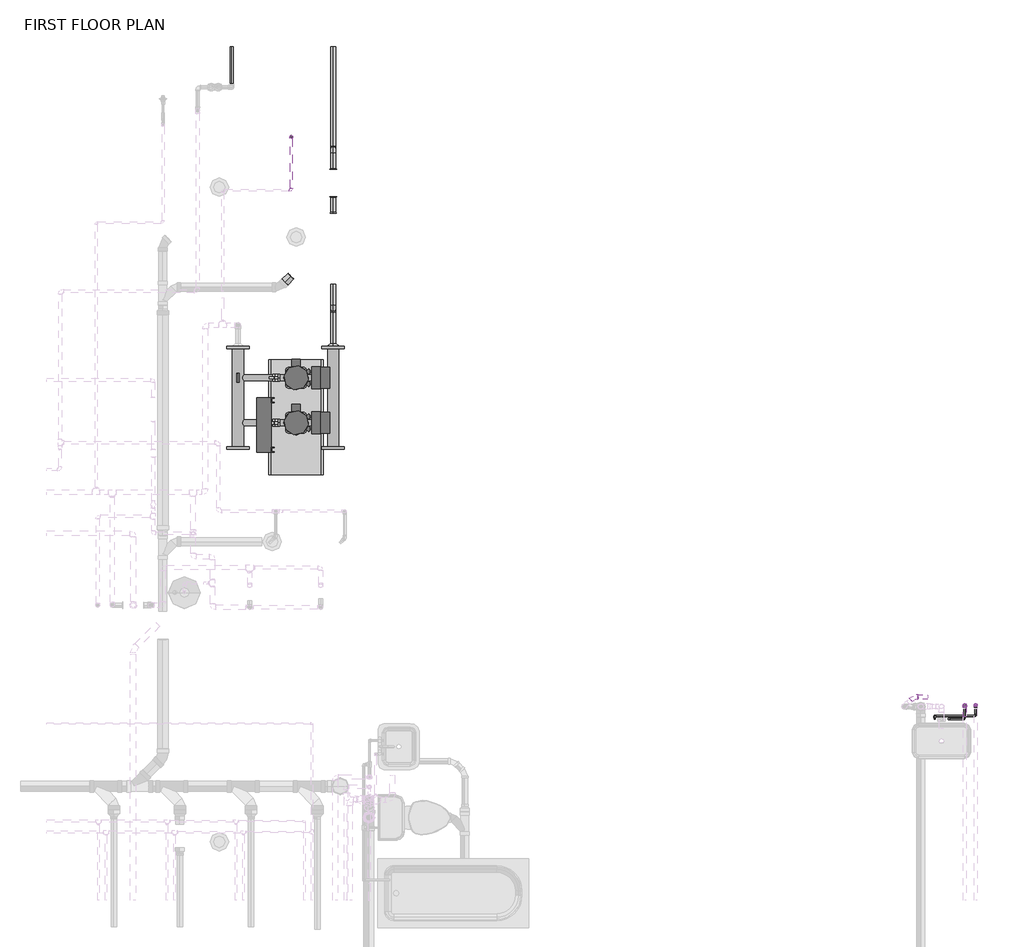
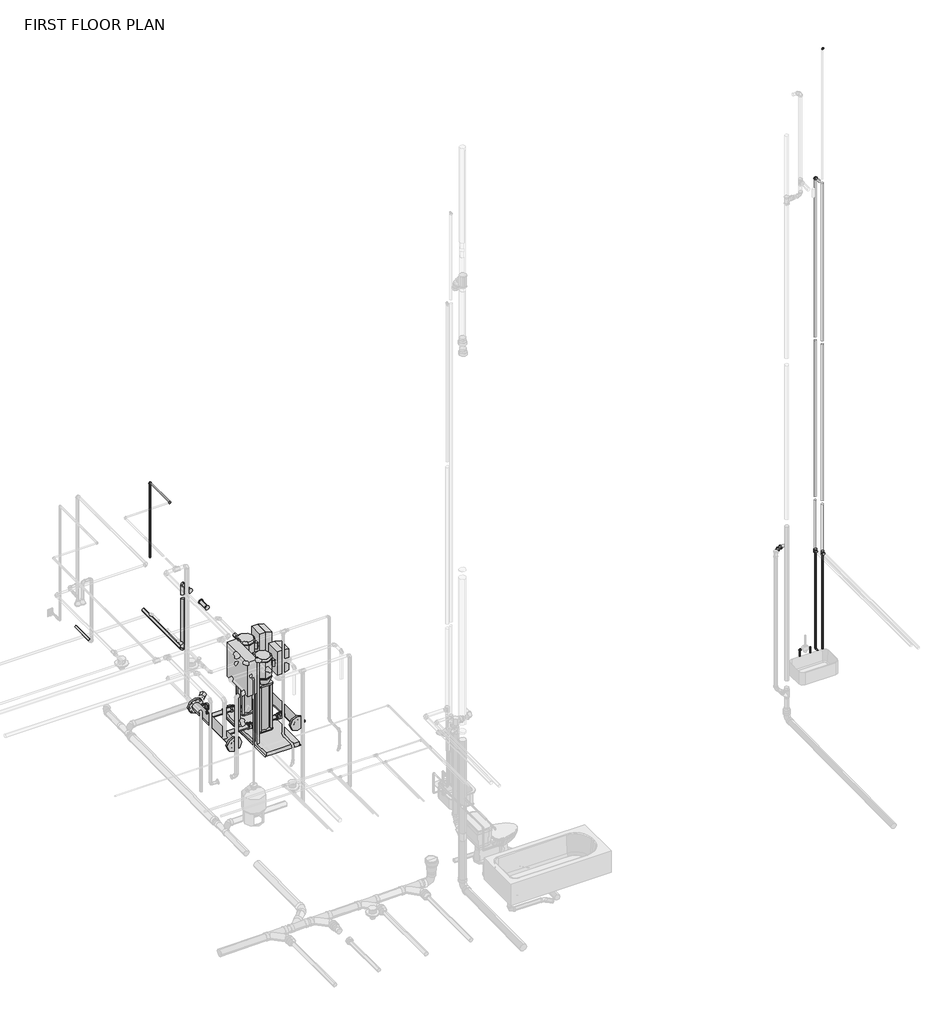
# One storey, part 29 of 29: 30 pipe segments, 27 pipe fittings, 1 proxy.
"""IFC4 building model written with IfcOpenShell, lengths in millimetres."""

from ifc_helpers import new_model, si_unit, point, frame, frame_2d, origin, place, context, project, spatial, circle_curve, trimmed, segment, composite_curve, outline, extrude, transform, mapped, element, save
from components import i270412_7bbb27d8, i270412_99a266b8, bend_pvc_sch_40_dwv_standard_9b1ab2e2, pipe_elbow_copper_k_764eecca, pipe_elbow_copper_k_feaaf02c, pipe_elbow_copper_k_aad62f2d, pipe_elbow_copper_k_aee2f062, pipe_elbow_copper_k_4cfe590c, pipe_elbow_copper_k_69a8f9be, pipe_tee_copper_k_60c871d1, pipe_transition_copper_k_2f557555, pipe_transition_copper_k_77c010de, pipe_transition_copper_k_3cb08e53, pipe_transition_copper_k_859ff352, pipe_transition_copper_k_46d96269, pipe_transition_copper_k_a9268ca5, pipe_transition_copper_k_a0e390c6

model = new_model("IFC4")

# Units and contexts
model_context = context("Model", 3, world=origin())
ifc_project = project(units=[si_unit("LENGTHUNIT", "METRE", prefix="MILLI")], contexts=[model_context])

# Site, building, storey
site = spatial("IfcSite", under=ifc_project)
building = spatial("IfcBuilding", under=site)
storey = spatial("IfcBuildingStorey", under=building, Name="FIRST FLOOR PLAN", Elevation=0.0)

# Proxy
placement = place(None, origin())
i270412_shape = i270412_7bbb27d8(model_context)
i270412_2_shape = i270412_99a266b8(model_context)
element("IfcBuildingElementProxy", 1, Name="GES Booster Pumps - Armstrong-6800DE2P-SRDR : I270412", ObjectType="GES Booster Pumps - Armstrong-6800DE2P-SRDR : I270412", at=placement, inside=storey, context=model_context, shape_type="MappedRepresentation", body=[
    mapped(i270412_shape, transform((16129.1084875, 12327.4487881, -0.03175), x_axis=(0.0, 1.0, 0.0), y_axis=(-1.0, 0.0, 0.0), z_axis=(0.0, 0.0, 1.0))),
    mapped(i270412_2_shape, transform((16129.1084875, 12327.4487881, -0.03175), x_axis=(0.0, 1.0, 0.0), y_axis=(-1.0, 0.0, 0.0), z_axis=(0.0, 0.0, 1.0))),
])

# Pipe fittings
bend_pvc_sch_40_dwv_standard_shape = bend_pvc_sch_40_dwv_standard_9b1ab2e2(model_context)
element("IfcPipeFitting", 2, ObjectType="Bend - PVC - Sch 40 - DWV : Standard", at=placement, inside=storey, context=model_context, shape_type="MappedRepresentation", body=[
    mapped(bend_pvc_sch_40_dwv_standard_shape, transform((22984.0760534, 9017.6936646, 2685.8309152), x_axis=(-0.9999457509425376, 0.0, 0.010416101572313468), y_axis=(4.542044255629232e-05, -0.9999904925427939, 0.004360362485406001), z_axis=(0.010416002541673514, 0.004360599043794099, 0.9999362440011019))),
])
pipe_elbow_copper_k_shape = pipe_elbow_copper_k_764eecca(model_context)
element("IfcPipeFitting", 3, ObjectType="Pipe Elbow : Copper- K", at=placement, inside=storey, context=model_context, shape_type="MappedRepresentation", body=[
    mapped(pipe_elbow_copper_k_shape, transform((16541.6044875, 15095.4137881, 627.85625), x_axis=(0.0, 1.0, 0.0), y_axis=(0.0, 0.0, -1.0), z_axis=(-1.0, 0.0, 0.0))),
])
element("IfcPipeFitting", 4, ObjectType="Pipe Elbow : Copper- K", at=placement, inside=storey, context=model_context, shape_type="MappedRepresentation", body=[
    mapped(pipe_elbow_copper_k_shape, transform((16541.6044875, 15095.4137881, -532.8738068), x_axis=(0.0, -1.0, 0.0), y_axis=(0.0, 0.0, 1.0), z_axis=(-1.0, 0.0, 0.0))),
])
element("IfcPipeFitting", 5, ObjectType="Pipe Elbow : Copper- K", at=placement, inside=storey, context=model_context, shape_type="MappedRepresentation", body=[
    mapped(pipe_elbow_copper_k_shape, transform((16541.6044875, 13326.1450381, 170.65625), x_axis=(0.0, 1.0, 0.0), y_axis=(0.0, 0.0, 1.0), z_axis=(1.0, 0.0, 0.0))),
])
element("IfcPipeFitting", 6, ObjectType="Pipe Elbow : Copper- K", at=placement, inside=storey, context=model_context, shape_type="MappedRepresentation", body=[
    mapped(pipe_elbow_copper_k_shape, transform((16541.6044875, 13326.1450381, 627.85625), x_axis=(0.0, 0.0, 1.0), y_axis=(0.0, 1.0, 0.0), z_axis=(-1.0, 0.0, 0.0))),
])
pipe_elbow_copper_k_2_shape = pipe_elbow_copper_k_feaaf02c(model_context)
element("IfcPipeFitting", 7, ObjectType="Pipe Elbow : Copper- K", at=placement, inside=storey, context=model_context, shape_type="MappedRepresentation", body=[
    mapped(pipe_elbow_copper_k_2_shape, transform((16076.0797169, 14641.5455631, 2490.6882812), x_axis=(0.9999999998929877, 0.0, 1.46295805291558e-05), y_axis=(0.0, 1.0, 0.0), z_axis=(-1.46295805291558e-05, 0.0, 0.9999999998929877))),
])
element("IfcPipeFitting", 8, ObjectType="Pipe Elbow : Copper- K", at=placement, inside=storey, context=model_context, shape_type="MappedRepresentation", body=[
    mapped(pipe_elbow_copper_k_2_shape, transform((16076.0797169, 15237.5387881, 2490.6882812), x_axis=(0.0, 1.0, 0.0), y_axis=(0.0, 0.0, -1.0), z_axis=(-1.0, 0.0, 0.0))),
])
element("IfcPipeFitting", 9, ObjectType="Pipe Elbow : Copper- K", at=placement, inside=storey, context=model_context, shape_type="MappedRepresentation", body=[
    mapped(pipe_elbow_copper_k_2_shape, transform((23669.3410297, 8927.8175381, 658.9178352), x_axis=(0.0, 1.0, 0.0), y_axis=(0.0, 0.0, 1.0), z_axis=(1.0, 0.0, 0.0))),
])
pipe_elbow_copper_k_3_shape = pipe_elbow_copper_k_aad62f2d(model_context)
element("IfcPipeFitting", 10, ObjectType="Pipe Elbow : Copper- K", at=placement, inside=storey, context=model_context, shape_type="MappedRepresentation", body=[
    mapped(pipe_elbow_copper_k_3_shape, transform((23548.6084875, 8927.8175381, 770.7360969), x_axis=(0.0, 0.0, -1.0), y_axis=(0.0, -1.0, 0.0), z_axis=(-1.0, 0.0, 0.0))),
])
element("IfcPipeFitting", 11, ObjectType="Pipe Elbow : Copper- K", at=placement, inside=storey, context=model_context, shape_type="MappedRepresentation", body=[
    mapped(pipe_elbow_copper_k_3_shape, transform((23548.6084875, 8774.1278432, 770.7360969), x_axis=(0.9999999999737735, 0.0, -7.242448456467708e-06), y_axis=(0.0, 1.0000000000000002, 0.0), z_axis=(7.242448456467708e-06, 0.0, 0.9999999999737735))),
])
element("IfcPipeFitting", 12, ObjectType="Pipe Elbow : Copper- K", at=placement, inside=storey, context=model_context, shape_type="MappedRepresentation", body=[
    mapped(pipe_elbow_copper_k_3_shape, transform((23669.3410297, 8806.2157662, 658.9178352), x_axis=(1.0, 0.0, 0.0), y_axis=(0.0, 1.0, 0.0), z_axis=(0.0, 0.0, 1.0))),
])
element("IfcPipeFitting", 13, ObjectType="Pipe Elbow : Copper- K", at=placement, inside=storey, context=model_context, shape_type="MappedRepresentation", body=[
    mapped(pipe_elbow_copper_k_3_shape, transform((23669.3410297, 8927.8175381, 11328.4), x_axis=(0.0, 0.0, 1.0), y_axis=(0.0, -1.0, 0.0), z_axis=(1.0, 0.0, 0.0))),
])
pipe_elbow_copper_k_4_shape = pipe_elbow_copper_k_aee2f062(model_context)
element("IfcPipeFitting", 14, ObjectType="Pipe Elbow : Copper- K", at=placement, inside=storey, context=model_context, shape_type="MappedRepresentation", body=[
    mapped(pipe_elbow_copper_k_4_shape, transform((23548.6084875, 8927.8175381, 9083.0784105), x_axis=(0.0, 1.0, 0.0), y_axis=(0.0, 0.0, -1.0), z_axis=(-1.0, 0.0, 0.0))),
])
pipe_elbow_copper_k_5_shape = pipe_elbow_copper_k_4cfe590c(model_context)
element("IfcPipeFitting", 15, ObjectType="Pipe Elbow : Copper- K", at=placement, inside=storey, context=model_context, shape_type="MappedRepresentation", body=[
    mapped(pipe_elbow_copper_k_5_shape, transform((23373.3163377, 8774.1278432, 770.7373664), x_axis=(0.0, 0.0, -1.0), y_axis=(1.0, 0.0, 0.0), z_axis=(0.0, -1.0, 0.0))),
])
pipe_elbow_copper_k_6_shape = pipe_elbow_copper_k_69a8f9be(model_context)
element("IfcPipeFitting", 16, ObjectType="Pipe Elbow : Copper- K", at=placement, inside=storey, context=model_context, shape_type="MappedRepresentation", body=[
    mapped(pipe_elbow_copper_k_6_shape, transform((23216.0641516, 8806.2157662, 658.9178352), x_axis=(-1.0, 0.0, 0.0), y_axis=(0.0, 0.0, -1.0), z_axis=(0.0, -1.0, 0.0))),
])
element("IfcPipeFitting", 17, ObjectType="Pipe Elbow : Copper- K", at=placement, inside=storey, context=model_context, shape_type="MappedRepresentation", body=[
    mapped(pipe_elbow_copper_k_6_shape, transform((23216.0641516, 8806.2157662, 944.8601562), x_axis=(0.0, 0.0, 1.0), y_axis=(0.0, 1.0, 0.0), z_axis=(-1.0, 0.0, 0.0))),
])
pipe_tee_copper_k_shape = pipe_tee_copper_k_60c871d1(model_context)
element("IfcPipeFitting", 18, ObjectType="Pipe Tee : Copper- K", at=placement, inside=storey, context=model_context, shape_type="MappedRepresentation", body=[
    mapped(pipe_tee_copper_k_shape, transform((23548.6084875, 8927.8175381, 2490.6882812), x_axis=(0.0, 0.0, -1.0), y_axis=(0.0, 1.0, 0.0), z_axis=(1.0, 0.0, 0.0))),
])
element("IfcPipeFitting", 19, ObjectType="Pipe Tee : Copper- K", at=placement, inside=storey, context=model_context, shape_type="MappedRepresentation", body=[
    mapped(pipe_tee_copper_k_shape, transform((23669.3410297, 8927.8175381, 2413.0), x_axis=(0.0, 0.0, -1.0), y_axis=(0.0, 1.0, 0.0), z_axis=(1.0, 0.0, 0.0))),
])
pipe_transition_copper_k_shape = pipe_transition_copper_k_2f557555(model_context)
element("IfcPipeFitting", 20, ObjectType="Pipe Transition : Copper- K", at=placement, inside=storey, context=model_context, shape_type="MappedRepresentation", body=[
    mapped(pipe_transition_copper_k_shape, transform((16541.6044875, 12908.4737881, 170.65625), x_axis=(0.0, 1.0, 0.0), y_axis=(-1.0, 0.0, 0.0), z_axis=(0.0, 0.0, 1.0))),
])
pipe_transition_copper_k_2_shape = pipe_transition_copper_k_77c010de(model_context)
element("IfcPipeFitting", 21, ObjectType="Pipe Transition : Copper- K", at=placement, inside=storey, context=model_context, shape_type="MappedRepresentation", body=[
    mapped(pipe_transition_copper_k_2_shape, transform((16541.6044875, 14384.2137881, 627.85625), x_axis=(0.0, 1.0, 0.0), y_axis=(-1.0, 0.0, 0.0), z_axis=(0.0, 0.0, 1.0))),
])
pipe_transition_copper_k_3_shape = pipe_transition_copper_k_3cb08e53(model_context)
element("IfcPipeFitting", 22, ObjectType="Pipe Transition : Copper- K", at=placement, inside=storey, context=model_context, shape_type="MappedRepresentation", body=[
    mapped(pipe_transition_copper_k_3_shape, transform((16541.6044875, 14559.9731786, 627.85625), x_axis=(0.0, 1.0, 0.0), y_axis=(-1.0, 0.0, 0.0), z_axis=(0.0, 0.0, 1.0))),
])
element("IfcPipeFitting", 23, ObjectType="Pipe Transition : Copper- K", at=placement, inside=storey, context=model_context, shape_type="MappedRepresentation", body=[
    mapped(pipe_transition_copper_k_3_shape, transform((16541.6044875, 14884.6169286, 627.85625), x_axis=(0.0, -1.0, 0.0), y_axis=(1.0, 0.0, 0.0), z_axis=(0.0, 0.0, 1.0))),
])
pipe_transition_copper_k_4_shape = pipe_transition_copper_k_859ff352(model_context)
element("IfcPipeFitting", 24, ObjectType="Pipe Transition : Copper- K", at=placement, inside=storey, context=model_context, shape_type="MappedRepresentation", body=[
    mapped(pipe_transition_copper_k_4_shape, transform((23548.6084875, 8927.8175381, 793.7548469), x_axis=(0.0, 0.0, -1.0), y_axis=(-1.0, 0.0, 0.0), z_axis=(0.0, 1.0, 0.0))),
])
element("IfcPipeFitting", 25, ObjectType="Pipe Transition : Copper- K", at=placement, inside=storey, context=model_context, shape_type="MappedRepresentation", body=[
    mapped(pipe_transition_copper_k_4_shape, transform((23669.3410297, 8927.8175381, 11305.38125), x_axis=(0.0, 0.0, 1.0), y_axis=(1.0, 0.0, 0.0), z_axis=(0.0, 1.0, 0.0))),
])
pipe_transition_copper_k_5_shape = pipe_transition_copper_k_46d96269(model_context)
element("IfcPipeFitting", 26, ObjectType="Pipe Transition : Copper- K", at=placement, inside=storey, context=model_context, shape_type="MappedRepresentation", body=[
    mapped(pipe_transition_copper_k_5_shape, transform((23669.3410297, 8823.6782662, 658.9178352), x_axis=(0.0, 1.0, 0.0), y_axis=(-1.0, 0.0, 0.0), z_axis=(0.0, 0.0, 1.0))),
])
pipe_transition_copper_k_6_shape = pipe_transition_copper_k_a9268ca5(model_context)
element("IfcPipeFitting", 27, ObjectType="Pipe Transition : Copper- K", at=placement, inside=storey, context=model_context, shape_type="MappedRepresentation", body=[
    mapped(pipe_transition_copper_k_6_shape, transform((23548.6084875, 8927.8175381, 2457.3507812), x_axis=(0.0, 0.0, -1.0), y_axis=(-1.0, 0.0, 0.0), z_axis=(0.0, 1.0, 0.0))),
])
pipe_transition_copper_k_7_shape = pipe_transition_copper_k_a0e390c6(model_context)
element("IfcPipeFitting", 28, ObjectType="Pipe Transition : Copper- K", at=placement, inside=storey, context=model_context, shape_type="MappedRepresentation", body=[
    mapped(pipe_transition_copper_k_7_shape, transform((23669.3410297, 8927.8175381, 2375.296875), x_axis=(0.0, 0.0, 1.0), y_axis=(1.0, 0.0, 0.0), z_axis=(0.0, 1.0, 0.0))),
])

# Pipe segments
element("IfcPipeSegment", 29, ObjectType="Black Iron - GAS", at=placement, inside=storey, context=model_context, shape_type="SweptSolid", body=[
    extrude(outline(composite_curve([segment(trimmed(circle_curve(frame_2d((-431.8, 15417.5192636)), 16.7005), [point((-431.8, 15434.2197636))], [point((-415.0995, 15417.5192636))], False, "CARTESIAN"), True, "CONTINUOUS"), segment(trimmed(circle_curve(frame_2d((-431.8, 15417.5192636)), 16.7005), [point((-415.0995, 15417.5192636))], [point((-431.8, 15400.8187636))], False, "CARTESIAN"), True, "CONTINUOUS"), segment(trimmed(circle_curve(frame_2d((-431.8, 15417.5192636)), 16.7005), [point((-431.8, 15400.8187636))], [point((-448.5005, 15417.5192636))], False, "CARTESIAN"), True, "CONTINUOUS"), segment(trimmed(circle_curve(frame_2d((-431.8, 15417.5192636)), 16.7005), [point((-448.5005, 15417.5192636))], [point((-431.8, 15434.2197636))], False, "CARTESIAN"), True, "CONTINUOUS")], self_intersect=False)), frame((0.0, 15820.8677357, 0.0), z_axis=(0.0, 1.0, 0.0), x_axis=(0.0, 0.0, 1.0)), (0.0, 0.0, 1.0), 415.0060522),
])
element("IfcPipeSegment", 30, ObjectType="Copper", at=placement, inside=storey, context=model_context, shape_type="SweptSolid", body=[
    extrude(outline(composite_curve([segment(trimmed(circle_curve(frame_2d((-532.8738068, 16541.6044875)), 26.9875), [point((-532.8738068, 16568.5919875))], [point((-505.8863068, 16541.6044875))], False, "CARTESIAN"), True, "CONTINUOUS"), segment(trimmed(circle_curve(frame_2d((-532.8738068, 16541.6044875)), 26.9875), [point((-505.8863068, 16541.6044875))], [point((-532.8738068, 16514.6169875))], False, "CARTESIAN"), True, "CONTINUOUS"), segment(trimmed(circle_curve(frame_2d((-532.8738068, 16541.6044875)), 26.9875), [point((-532.8738068, 16514.6169875))], [point((-559.8613068, 16541.6044875))], False, "CARTESIAN"), True, "CONTINUOUS"), segment(trimmed(circle_curve(frame_2d((-532.8738068, 16541.6044875)), 26.9875), [point((-559.8613068, 16541.6044875))], [point((-532.8738068, 16568.5919875))], False, "CARTESIAN"), True, "CONTINUOUS")], self_intersect=False)), frame((0.0, 15131.9262881, 0.0), z_axis=(0.0, 1.0, 0.0), x_axis=(0.0, 0.0, 1.0)), (0.0, 0.0, 1.0), 1103.9474998),
])
element("IfcPipeSegment", 31, ObjectType="Copper", at=placement, inside=storey, context=model_context, shape_type="SweptSolid", body=[
    extrude(outline(composite_curve([segment(trimmed(circle_curve(frame_2d((170.65625, 16541.6044875)), 26.9875), [point((170.65625, 16568.5919875))], [point((197.64375, 16541.6044875))], False, "CARTESIAN"), True, "CONTINUOUS"), segment(trimmed(circle_curve(frame_2d((170.65625, 16541.6044875)), 26.9875), [point((197.64375, 16541.6044875))], [point((170.65625, 16514.6169875))], False, "CARTESIAN"), True, "CONTINUOUS"), segment(trimmed(circle_curve(frame_2d((170.65625, 16541.6044875)), 26.9875), [point((170.65625, 16514.6169875))], [point((143.66875, 16541.6044875))], False, "CARTESIAN"), True, "CONTINUOUS"), segment(trimmed(circle_curve(frame_2d((170.65625, 16541.6044875)), 26.9875), [point((143.66875, 16541.6044875))], [point((170.65625, 16568.5919875))], False, "CARTESIAN"), True, "CONTINUOUS")], self_intersect=False)), frame((0.0, 12941.0175381, 0.0), z_axis=(0.0, 1.0, 0.0), x_axis=(0.0, 0.0, 1.0)), (0.0, 0.0, 1.0), 348.615),
])
element("IfcPipeSegment", 32, ObjectType="Copper", at=placement, inside=storey, context=model_context, shape_type="SweptSolid", body=[
    extrude(outline(composite_curve([segment(trimmed(circle_curve(frame_2d((627.85625, 16541.6044875)), 26.9875), [point((627.85625, 16568.5919875))], [point((654.84375, 16541.6044875))], False, "CARTESIAN"), True, "CONTINUOUS"), segment(trimmed(circle_curve(frame_2d((627.85625, 16541.6044875)), 26.9875), [point((654.84375, 16541.6044875))], [point((627.85625, 16514.6169875))], False, "CARTESIAN"), True, "CONTINUOUS"), segment(trimmed(circle_curve(frame_2d((627.85625, 16541.6044875)), 26.9875), [point((627.85625, 16514.6169875))], [point((600.86875, 16541.6044875))], False, "CARTESIAN"), True, "CONTINUOUS"), segment(trimmed(circle_curve(frame_2d((627.85625, 16541.6044875)), 26.9875), [point((600.86875, 16541.6044875))], [point((627.85625, 16568.5919875))], False, "CARTESIAN"), True, "CONTINUOUS")], self_intersect=False)), frame((0.0, 14884.6169286, 0.0), z_axis=(0.0, 1.0, 0.0), x_axis=(0.0, 0.0, 1.0)), (0.0, 0.0, 1.0), 174.2843594),
])
element("IfcPipeSegment", 33, ObjectType="Copper", at=placement, inside=storey, context=model_context, shape_type="SweptSolid", body=[
    extrude(outline(composite_curve([segment(trimmed(circle_curve(frame_2d((627.85625, 16541.6044875)), 26.9875), [point((627.85625, 16568.5919875))], [point((654.84375, 16541.6044875))], False, "CARTESIAN"), True, "CONTINUOUS"), segment(trimmed(circle_curve(frame_2d((627.85625, 16541.6044875)), 26.9875), [point((654.84375, 16541.6044875))], [point((627.85625, 16514.6169875))], False, "CARTESIAN"), True, "CONTINUOUS"), segment(trimmed(circle_curve(frame_2d((627.85625, 16541.6044875)), 26.9875), [point((627.85625, 16514.6169875))], [point((600.86875, 16541.6044875))], False, "CARTESIAN"), True, "CONTINUOUS"), segment(trimmed(circle_curve(frame_2d((627.85625, 16541.6044875)), 26.9875), [point((600.86875, 16541.6044875))], [point((627.85625, 16568.5919875))], False, "CARTESIAN"), True, "CONTINUOUS")], self_intersect=False)), frame((0.0, 13362.6575381, 0.0), z_axis=(0.0, 1.0, 0.0), x_axis=(0.0, 0.0, 1.0)), (0.0, 0.0, 1.0), 234.15625),
])
element("IfcPipeSegment", 34, ObjectType="Copper", at=placement, inside=storey, context=model_context, shape_type="SweptSolid", body=[
    extrude(outline(composite_curve([segment(trimmed(circle_curve(frame_2d((16541.6044875, 15095.4137881)), 26.9875), [point((16568.5919875, 15095.4137881))], [point((16541.6044875, 15068.4262881))], False, "CARTESIAN"), True, "CONTINUOUS"), segment(trimmed(circle_curve(frame_2d((16541.6044875, 15095.4137881)), 26.9875), [point((16541.6044875, 15068.4262881))], [point((16514.6169875, 15095.4137881))], False, "CARTESIAN"), True, "CONTINUOUS"), segment(trimmed(circle_curve(frame_2d((16541.6044875, 15095.4137881)), 26.9875), [point((16514.6169875, 15095.4137881))], [point((16541.6044875, 15122.4012881))], False, "CARTESIAN"), True, "CONTINUOUS"), segment(trimmed(circle_curve(frame_2d((16541.6044875, 15095.4137881)), 26.9875), [point((16541.6044875, 15122.4012881))], [point((16568.5919875, 15095.4137881))], False, "CARTESIAN"), True, "CONTINUOUS")], self_intersect=False)), frame((0.0, 0.0, -496.3613068), z_axis=(0.0, 0.0, 1.0), x_axis=(1.0, 0.0, 0.0)), (0.0, 0.0, 1.0), 856.7555568),
])
element("IfcPipeSegment", 35, ObjectType="Copper", at=placement, inside=storey, context=model_context, shape_type="SweptSolid", body=[
    extrude(outline(composite_curve([segment(trimmed(circle_curve(frame_2d((16541.6044875, 13326.1450381)), 26.9875), [point((16514.6169875, 13326.1450381))], [point((16541.6044875, 13353.1325381))], False, "CARTESIAN"), True, "CONTINUOUS"), segment(trimmed(circle_curve(frame_2d((16541.6044875, 13326.1450381)), 26.9875), [point((16541.6044875, 13353.1325381))], [point((16568.5919875, 13326.1450381))], False, "CARTESIAN"), True, "CONTINUOUS"), segment(trimmed(circle_curve(frame_2d((16541.6044875, 13326.1450381)), 26.9875), [point((16568.5919875, 13326.1450381))], [point((16541.6044875, 13299.1575381))], False, "CARTESIAN"), True, "CONTINUOUS"), segment(trimmed(circle_curve(frame_2d((16541.6044875, 13326.1450381)), 26.9875), [point((16541.6044875, 13299.1575381))], [point((16514.6169875, 13326.1450381))], False, "CARTESIAN"), True, "CONTINUOUS")], self_intersect=False)), frame((0.0, 0.0, 438.11825), z_axis=(0.0, 0.0, 1.0), x_axis=(1.0, 0.0, 0.0)), (0.0, 0.0, 1.0), 153.2255),
])
element("IfcPipeSegment", 36, ObjectType="Copper", at=placement, inside=storey, context=model_context, shape_type="SweptSolid", body=[
    extrude(outline(composite_curve([segment(trimmed(circle_curve(frame_2d((627.85625, 16541.6044875)), 26.9875), [point((627.85625, 16568.5919875))], [point((654.84375, 16541.6044875))], False, "CARTESIAN"), True, "CONTINUOUS"), segment(trimmed(circle_curve(frame_2d((627.85625, 16541.6044875)), 26.9875), [point((654.84375, 16541.6044875))], [point((627.85625, 16514.6169875))], False, "CARTESIAN"), True, "CONTINUOUS"), segment(trimmed(circle_curve(frame_2d((627.85625, 16541.6044875)), 26.9875), [point((627.85625, 16514.6169875))], [point((600.86875, 16541.6044875))], False, "CARTESIAN"), True, "CONTINUOUS"), segment(trimmed(circle_curve(frame_2d((627.85625, 16541.6044875)), 26.9875), [point((600.86875, 16541.6044875))], [point((627.85625, 16568.5919875))], False, "CARTESIAN"), True, "CONTINUOUS")], self_intersect=False)), frame((0.0, 14400.8825381, 0.0), z_axis=(0.0, 1.0, 0.0), x_axis=(0.0, 0.0, 1.0)), (0.0, 0.0, 1.0), 159.0906406),
])
element("IfcPipeSegment", 37, ObjectType="Copper", at=placement, inside=storey, context=model_context, shape_type="SweptSolid", body=[
    extrude(outline(composite_curve([segment(trimmed(circle_curve(frame_2d((16541.6044875, 15095.4137881)), 26.9875), [point((16568.5919875, 15095.4137881))], [point((16541.6044875, 15068.4262881))], False, "CARTESIAN"), True, "CONTINUOUS"), segment(trimmed(circle_curve(frame_2d((16541.6044875, 15095.4137881)), 26.9875), [point((16541.6044875, 15068.4262881))], [point((16514.6169875, 15095.4137881))], False, "CARTESIAN"), True, "CONTINUOUS"), segment(trimmed(circle_curve(frame_2d((16541.6044875, 15095.4137881)), 26.9875), [point((16514.6169875, 15095.4137881))], [point((16541.6044875, 15122.4012881))], False, "CARTESIAN"), True, "CONTINUOUS"), segment(trimmed(circle_curve(frame_2d((16541.6044875, 15095.4137881)), 26.9875), [point((16541.6044875, 15122.4012881))], [point((16568.5919875, 15095.4137881))], False, "CARTESIAN"), True, "CONTINUOUS")], self_intersect=False)), frame((0.0, 0.0, 438.11825), z_axis=(0.0, 0.0, 1.0), x_axis=(1.0, 0.0, 0.0)), (0.0, 0.0, 1.0), 153.2255),
])
element("IfcPipeSegment", 38, ObjectType="Copper", at=placement, inside=storey, context=model_context, shape_type="SweptSolid", body=[
    extrude(outline(composite_curve([segment(trimmed(circle_curve(frame_2d((16541.6044875, 13326.1450381)), 26.9875), [point((16514.6169875, 13326.1450381))], [point((16541.6044875, 13353.1325381))], False, "CARTESIAN"), True, "CONTINUOUS"), segment(trimmed(circle_curve(frame_2d((16541.6044875, 13326.1450381)), 26.9875), [point((16541.6044875, 13353.1325381))], [point((16568.5919875, 13326.1450381))], False, "CARTESIAN"), True, "CONTINUOUS"), segment(trimmed(circle_curve(frame_2d((16541.6044875, 13326.1450381)), 26.9875), [point((16568.5919875, 13326.1450381))], [point((16541.6044875, 13299.1575381))], False, "CARTESIAN"), True, "CONTINUOUS"), segment(trimmed(circle_curve(frame_2d((16541.6044875, 13326.1450381)), 26.9875), [point((16541.6044875, 13299.1575381))], [point((16514.6169875, 13326.1450381))], False, "CARTESIAN"), True, "CONTINUOUS")], self_intersect=False)), frame((0.0, 0.0, 207.16875), z_axis=(0.0, 0.0, 1.0), x_axis=(1.0, 0.0, 0.0)), (0.0, 0.0, 1.0), 153.2255),
])
element("IfcPipeSegment", 39, ObjectType="Copper", at=placement, inside=storey, context=model_context, shape_type="SweptSolid", body=[
    extrude(outline(composite_curve([segment(trimmed(circle_curve(frame_2d((2490.6882812, 16076.0797169)), 11.1125), [point((2490.6882812, 16087.1922169))], [point((2501.8007812, 16076.0797169))], False, "CARTESIAN"), True, "CONTINUOUS"), segment(trimmed(circle_curve(frame_2d((2490.6882812, 16076.0797169)), 11.1125), [point((2501.8007812, 16076.0797169))], [point((2490.6882812, 16064.9672169))], False, "CARTESIAN"), True, "CONTINUOUS"), segment(trimmed(circle_curve(frame_2d((2490.6882812, 16076.0797169)), 11.1125), [point((2490.6882812, 16064.9672169))], [point((2479.5757812, 16076.0797169))], False, "CARTESIAN"), True, "CONTINUOUS"), segment(trimmed(circle_curve(frame_2d((2490.6882812, 16076.0797169)), 11.1125), [point((2479.5757812, 16076.0797169))], [point((2490.6882812, 16087.1922169))], False, "CARTESIAN"), True, "CONTINUOUS")], self_intersect=False)), frame((0.0, 14662.1830631, 0.0), z_axis=(0.0, 1.0, 0.0), x_axis=(0.0, 0.0, 1.0)), (0.0, 0.0, 1.0), 554.718225),
])
element("IfcPipeSegment", 40, ObjectType="Copper", at=placement, inside=storey, context=model_context, shape_type="SweptSolid", body=[
    extrude(outline(composite_curve([segment(trimmed(circle_curve(frame_2d((16076.0797169, 15237.5387881)), 11.1125), [point((16087.1922169, 15237.5387881))], [point((16076.0797169, 15226.4262881))], False, "CARTESIAN"), True, "CONTINUOUS"), segment(trimmed(circle_curve(frame_2d((16076.0797169, 15237.5387881)), 11.1125), [point((16076.0797169, 15226.4262881))], [point((16064.9672169, 15237.5387881))], False, "CARTESIAN"), True, "CONTINUOUS"), segment(trimmed(circle_curve(frame_2d((16076.0797169, 15237.5387881)), 11.1125), [point((16064.9672169, 15237.5387881))], [point((16076.0797169, 15248.6512881))], False, "CARTESIAN"), True, "CONTINUOUS"), segment(trimmed(circle_curve(frame_2d((16076.0797169, 15237.5387881)), 11.1125), [point((16076.0797169, 15248.6512881))], [point((16087.1922169, 15237.5387881))], False, "CARTESIAN"), True, "CONTINUOUS")], self_intersect=False)), frame((0.0, 0.0, 1165.9592852), z_axis=(0.0, 0.0, 1.0), x_axis=(1.0, 0.0, 0.0)), (0.0, 0.0, 1.0), 1304.0914961),
])
element("IfcPipeSegment", 41, ObjectType="Copper", at=placement, inside=storey, context=model_context, shape_type="SweptSolid", body=[
    extrude(outline(composite_curve([segment(trimmed(circle_curve(frame_2d((23548.6084875, 8927.8175381)), 17.4625), [point((23566.0709875, 8927.8175381))], [point((23548.6084875, 8910.3550381))], False, "CARTESIAN"), True, "CONTINUOUS"), segment(trimmed(circle_curve(frame_2d((23548.6084875, 8927.8175381)), 17.4625), [point((23548.6084875, 8910.3550381))], [point((23531.1459875, 8927.8175381))], False, "CARTESIAN"), True, "CONTINUOUS"), segment(trimmed(circle_curve(frame_2d((23548.6084875, 8927.8175381)), 17.4625), [point((23531.1459875, 8927.8175381))], [point((23548.6084875, 8945.2800381))], False, "CARTESIAN"), True, "CONTINUOUS"), segment(trimmed(circle_curve(frame_2d((23548.6084875, 8927.8175381)), 17.4625), [point((23548.6084875, 8945.2800381))], [point((23566.0709875, 8927.8175381))], False, "CARTESIAN"), True, "CONTINUOUS")], self_intersect=False)), frame((0.0, 0.0, 6271.6171883), z_axis=(0.0, 0.0, 1.0), x_axis=(1.0, 0.0, 0.0)), (0.0, 0.0, 1.0), 2784.4737222),
])
element("IfcPipeSegment", 42, ObjectType="Copper", at=placement, inside=storey, context=model_context, shape_type="SweptSolid", body=[
    extrude(outline(composite_curve([segment(trimmed(circle_curve(frame_2d((944.8601563, 23216.0641516)), 7.9375), [point((944.8601563, 23208.1266516))], [point((936.9226563, 23216.0641516))], False, "CARTESIAN"), True, "CONTINUOUS"), segment(trimmed(circle_curve(frame_2d((944.8601563, 23216.0641516)), 7.9375), [point((936.9226563, 23216.0641516))], [point((944.8601563, 23224.0016516))], False, "CARTESIAN"), True, "CONTINUOUS"), segment(trimmed(circle_curve(frame_2d((944.8601563, 23216.0641516)), 7.9375), [point((944.8601563, 23224.0016516))], [point((952.7976563, 23216.0641516))], False, "CARTESIAN"), True, "CONTINUOUS"), segment(trimmed(circle_curve(frame_2d((944.8601563, 23216.0641516)), 7.9375), [point((952.7976563, 23216.0641516))], [point((944.8601563, 23208.1266516))], False, "CARTESIAN"), True, "CONTINUOUS")], self_intersect=False)), frame((0.0, 8771.4354504, 0.0), z_axis=(0.0, 1.0, 0.0), x_axis=(0.0, 0.0, 1.0)), (0.0, 0.0, 1.0), 17.3178158),
])
element("IfcPipeSegment", 43, ObjectType="Copper", at=placement, inside=storey, context=model_context, shape_type="SweptSolid", body=[
    extrude(outline(composite_curve([segment(trimmed(circle_curve(frame_2d((8774.1278432, 770.7362234)), 7.9375), [point((8782.0653432, 770.7362234))], [point((8774.1278432, 762.7987234))], False, "CARTESIAN"), True, "CONTINUOUS"), segment(trimmed(circle_curve(frame_2d((8774.1278432, 770.7362234)), 7.9375), [point((8774.1278432, 762.7987234))], [point((8766.1903432, 770.7362234))], False, "CARTESIAN"), True, "CONTINUOUS"), segment(trimmed(circle_curve(frame_2d((8774.1278432, 770.7362234)), 7.9375), [point((8766.1903432, 770.7362234))], [point((8774.1278432, 778.6737234))], False, "CARTESIAN"), True, "CONTINUOUS"), segment(trimmed(circle_curve(frame_2d((8774.1278432, 770.7362234)), 7.9375), [point((8774.1278432, 778.6737234))], [point((8782.0653432, 770.7362234))], False, "CARTESIAN"), True, "CONTINUOUS")], self_intersect=False)), frame((23390.7787113, 0.0, 0.0), z_axis=(1.0, 0.0, 0.0), x_axis=(0.0, 1.0, 0.0)), (0.0, 0.0, 1.0), 140.3672762),
])
element("IfcPipeSegment", 44, ObjectType="Copper", at=placement, inside=storey, context=model_context, shape_type="SweptSolid", body=[
    extrude(outline(composite_curve([segment(trimmed(circle_curve(frame_2d((23373.3163377, 8774.1278432)), 7.9375), [point((23365.3788377, 8774.1278432))], [point((23373.3163377, 8782.0653432))], False, "CARTESIAN"), True, "CONTINUOUS"), segment(trimmed(circle_curve(frame_2d((23373.3163377, 8774.1278432)), 7.9375), [point((23373.3163377, 8782.0653432))], [point((23381.2538377, 8774.1278432))], False, "CARTESIAN"), True, "CONTINUOUS"), segment(trimmed(circle_curve(frame_2d((23373.3163377, 8774.1278432)), 7.9375), [point((23381.2538377, 8774.1278432))], [point((23373.3163377, 8766.1903432))], False, "CARTESIAN"), True, "CONTINUOUS"), segment(trimmed(circle_curve(frame_2d((23373.3163377, 8774.1278432)), 7.9375), [point((23373.3163377, 8766.1903432))], [point((23365.3788377, 8774.1278432))], False, "CARTESIAN"), True, "CONTINUOUS")], self_intersect=False)), frame((0.0, 0.0, 788.19974), z_axis=(0.0, 0.0, 1.0), x_axis=(1.0, 0.0, 0.0)), (0.0, 0.0, 1.0), 156.6604163),
])
element("IfcPipeSegment", 45, ObjectType="Copper", at=placement, inside=storey, context=model_context, shape_type="SweptSolid", body=[
    extrude(outline(composite_curve([segment(trimmed(circle_curve(frame_2d((8806.2157662, 658.9178352)), 7.9375), [point((8814.1532662, 658.9178352))], [point((8806.2157662, 650.9803352))], False, "CARTESIAN"), True, "CONTINUOUS"), segment(trimmed(circle_curve(frame_2d((8806.2157662, 658.9178352)), 7.9375), [point((8806.2157662, 650.9803352))], [point((8798.2782662, 658.9178352))], False, "CARTESIAN"), True, "CONTINUOUS"), segment(trimmed(circle_curve(frame_2d((8806.2157662, 658.9178352)), 7.9375), [point((8798.2782662, 658.9178352))], [point((8806.2157662, 666.8553352))], False, "CARTESIAN"), True, "CONTINUOUS"), segment(trimmed(circle_curve(frame_2d((8806.2157662, 658.9178352)), 7.9375), [point((8806.2157662, 666.8553352))], [point((8814.1532662, 658.9178352))], False, "CARTESIAN"), True, "CONTINUOUS")], self_intersect=False)), frame((23233.5266516, 0.0, 0.0), z_axis=(1.0, 0.0, 0.0), x_axis=(0.0, 1.0, 0.0)), (0.0, 0.0, 1.0), 418.351878),
])
element("IfcPipeSegment", 46, ObjectType="Copper", at=placement, inside=storey, context=model_context, shape_type="SweptSolid", body=[
    extrude(outline(composite_curve([segment(trimmed(circle_curve(frame_2d((23216.0641516, 8806.2157662)), 7.9375), [point((23208.1266516, 8806.2157662))], [point((23216.0641516, 8814.1532662))], False, "CARTESIAN"), True, "CONTINUOUS"), segment(trimmed(circle_curve(frame_2d((23216.0641516, 8806.2157662)), 7.9375), [point((23216.0641516, 8814.1532662))], [point((23224.0016516, 8806.2157662))], False, "CARTESIAN"), True, "CONTINUOUS"), segment(trimmed(circle_curve(frame_2d((23216.0641516, 8806.2157662)), 7.9375), [point((23224.0016516, 8806.2157662))], [point((23216.0641516, 8798.2782662))], False, "CARTESIAN"), True, "CONTINUOUS"), segment(trimmed(circle_curve(frame_2d((23216.0641516, 8806.2157662)), 7.9375), [point((23216.0641516, 8798.2782662))], [point((23208.1266516, 8806.2157662))], False, "CARTESIAN"), True, "CONTINUOUS")], self_intersect=False)), frame((0.0, 0.0, 676.3803352), z_axis=(0.0, 0.0, 1.0), x_axis=(1.0, 0.0, 0.0)), (0.0, 0.0, 1.0), 251.0173211),
])
element("IfcPipeSegment", 47, ObjectType="Copper", at=placement, inside=storey, context=model_context, shape_type="SweptSolid", body=[
    extrude(outline(composite_curve([segment(trimmed(circle_curve(frame_2d((23669.3410297, 8927.8175381)), 11.1125), [point((23658.2285297, 8927.8175381))], [point((23669.3410297, 8938.9300381))], False, "CARTESIAN"), True, "CONTINUOUS"), segment(trimmed(circle_curve(frame_2d((23669.3410297, 8927.8175381)), 11.1125), [point((23669.3410297, 8938.9300381))], [point((23680.4535297, 8927.8175381))], False, "CARTESIAN"), True, "CONTINUOUS"), segment(trimmed(circle_curve(frame_2d((23669.3410297, 8927.8175381)), 11.1125), [point((23680.4535297, 8927.8175381))], [point((23669.3410297, 8916.7050381))], False, "CARTESIAN"), True, "CONTINUOUS"), segment(trimmed(circle_curve(frame_2d((23669.3410297, 8927.8175381)), 11.1125), [point((23669.3410297, 8916.7050381))], [point((23658.2285297, 8927.8175381))], False, "CARTESIAN"), True, "CONTINUOUS")], self_intersect=False)), frame((0.0, 0.0, 679.5553352), z_axis=(0.0, 0.0, 1.0), x_axis=(1.0, 0.0, 0.0)), (0.0, 0.0, 1.0), 1695.7415398),
])
element("IfcPipeSegment", 48, ObjectType="Copper", at=placement, inside=storey, context=model_context, shape_type="SweptSolid", body=[
    extrude(outline(composite_curve([segment(trimmed(circle_curve(frame_2d((23548.6084875, 8927.8175381)), 11.1125), [point((23559.7209875, 8927.8175381))], [point((23548.6084875, 8916.7050381))], False, "CARTESIAN"), True, "CONTINUOUS"), segment(trimmed(circle_curve(frame_2d((23548.6084875, 8927.8175381)), 11.1125), [point((23548.6084875, 8916.7050381))], [point((23537.4959875, 8927.8175381))], False, "CARTESIAN"), True, "CONTINUOUS"), segment(trimmed(circle_curve(frame_2d((23548.6084875, 8927.8175381)), 11.1125), [point((23537.4959875, 8927.8175381))], [point((23548.6084875, 8938.9300381))], False, "CARTESIAN"), True, "CONTINUOUS"), segment(trimmed(circle_curve(frame_2d((23548.6084875, 8927.8175381)), 11.1125), [point((23548.6084875, 8938.9300381))], [point((23559.7209875, 8927.8175381))], False, "CARTESIAN"), True, "CONTINUOUS")], self_intersect=False)), frame((0.0, 0.0, 793.7548469), z_axis=(0.0, 0.0, 1.0), x_axis=(1.0, 0.0, 0.0)), (0.0, 0.0, 1.0), 1654.8646844),
])
element("IfcPipeSegment", 49, ObjectType="Copper", at=placement, inside=storey, context=model_context, shape_type="SweptSolid", body=[
    extrude(outline(composite_curve([segment(trimmed(circle_curve(frame_2d((770.7360969, 23548.6084875)), 7.9375), [point((770.7360969, 23540.6709875))], [point((762.7985969, 23548.6084875))], False, "CARTESIAN"), True, "CONTINUOUS"), segment(trimmed(circle_curve(frame_2d((770.7360969, 23548.6084875)), 7.9375), [point((762.7985969, 23548.6084875))], [point((770.7360969, 23556.5459875))], False, "CARTESIAN"), True, "CONTINUOUS"), segment(trimmed(circle_curve(frame_2d((770.7360969, 23548.6084875)), 7.9375), [point((770.7360969, 23556.5459875))], [point((778.6735969, 23548.6084875))], False, "CARTESIAN"), True, "CONTINUOUS"), segment(trimmed(circle_curve(frame_2d((770.7360969, 23548.6084875)), 7.9375), [point((778.6735969, 23548.6084875))], [point((770.7360969, 23540.6709875))], False, "CARTESIAN"), True, "CONTINUOUS")], self_intersect=False)), frame((0.0, 8791.5903432, 0.0), z_axis=(0.0, 1.0, 0.0), x_axis=(0.0, 0.0, 1.0)), (0.0, 0.0, 1.0), 118.7646948),
])
element("IfcPipeSegment", 50, ObjectType="Copper", at=placement, inside=storey, context=model_context, shape_type="SweptSolid", body=[
    extrude(outline(composite_curve([segment(trimmed(circle_curve(frame_2d((658.9178352, 23669.3410297)), 11.1125), [point((658.9178352, 23680.4535297))], [point((670.0303352, 23669.3410297))], False, "CARTESIAN"), True, "CONTINUOUS"), segment(trimmed(circle_curve(frame_2d((658.9178352, 23669.3410297)), 11.1125), [point((670.0303352, 23669.3410297))], [point((658.9178352, 23658.2285297))], False, "CARTESIAN"), True, "CONTINUOUS"), segment(trimmed(circle_curve(frame_2d((658.9178352, 23669.3410297)), 11.1125), [point((658.9178352, 23658.2285297))], [point((647.8053352, 23669.3410297))], False, "CARTESIAN"), True, "CONTINUOUS"), segment(trimmed(circle_curve(frame_2d((658.9178352, 23669.3410297)), 11.1125), [point((647.8053352, 23669.3410297))], [point((658.9178352, 23680.4535297))], False, "CARTESIAN"), True, "CONTINUOUS")], self_intersect=False)), frame((0.0, 8826.4563912, 0.0), z_axis=(0.0, 1.0, 0.0), x_axis=(0.0, 0.0, 1.0)), (0.0, 0.0, 1.0), 80.7236468),
])
element("IfcPipeSegment", 51, ObjectType="Copper", at=placement, inside=storey, context=model_context, shape_type="SweptSolid", body=[
    extrude(outline(composite_curve([segment(trimmed(circle_curve(frame_2d((23548.6084875, 8927.8175381)), 17.4625), [point((23531.1459875, 8927.8175381))], [point((23548.6084875, 8945.2800381))], False, "CARTESIAN"), True, "CONTINUOUS"), segment(trimmed(circle_curve(frame_2d((23548.6084875, 8927.8175381)), 17.4625), [point((23548.6084875, 8945.2800381))], [point((23566.0709875, 8927.8175381))], False, "CARTESIAN"), True, "CONTINUOUS"), segment(trimmed(circle_curve(frame_2d((23548.6084875, 8927.8175381)), 17.4625), [point((23566.0709875, 8927.8175381))], [point((23548.6084875, 8910.3550381))], False, "CARTESIAN"), True, "CONTINUOUS"), segment(trimmed(circle_curve(frame_2d((23548.6084875, 8927.8175381)), 17.4625), [point((23548.6084875, 8910.3550381))], [point((23531.1459875, 8927.8175381))], False, "CARTESIAN"), True, "CONTINUOUS")], self_intersect=False)), frame((0.0, 0.0, 2524.0257813), z_axis=(0.0, 0.0, 1.0), x_axis=(1.0, 0.0, 0.0)), (0.0, 0.0, 1.0), 861.5164071),
])
element("IfcPipeSegment", 52, ObjectType="Copper", at=placement, inside=storey, context=model_context, shape_type="SweptSolid", body=[
    extrude(outline(composite_curve([segment(trimmed(circle_curve(frame_2d((23669.3410297, 8927.8175381)), 17.4625), [point((23651.8785297, 8927.8175381))], [point((23669.3410297, 8945.2800381))], False, "CARTESIAN"), True, "CONTINUOUS"), segment(trimmed(circle_curve(frame_2d((23669.3410297, 8927.8175381)), 17.4625), [point((23669.3410297, 8945.2800381))], [point((23686.8035297, 8927.8175381))], False, "CARTESIAN"), True, "CONTINUOUS"), segment(trimmed(circle_curve(frame_2d((23669.3410297, 8927.8175381)), 17.4625), [point((23686.8035297, 8927.8175381))], [point((23669.3410297, 8910.3550381))], False, "CARTESIAN"), True, "CONTINUOUS"), segment(trimmed(circle_curve(frame_2d((23669.3410297, 8927.8175381)), 17.4625), [point((23669.3410297, 8910.3550381))], [point((23651.8785297, 8927.8175381))], False, "CARTESIAN"), True, "CONTINUOUS")], self_intersect=False)), frame((0.0, 0.0, 2446.3375), z_axis=(0.0, 0.0, 1.0), x_axis=(1.0, 0.0, 0.0)), (0.0, 0.0, 1.0), 827.3851563),
])
element("IfcPipeSegment", 53, ObjectType="Copper", at=placement, inside=storey, context=model_context, shape_type="SweptSolid", body=[
    extrude(outline(composite_curve([segment(trimmed(circle_curve(frame_2d((23548.6084875, 8927.8175381)), 17.4625), [point((23531.1459875, 8927.8175381))], [point((23548.6084875, 8945.2800381))], False, "CARTESIAN"), True, "CONTINUOUS"), segment(trimmed(circle_curve(frame_2d((23548.6084875, 8927.8175381)), 17.4625), [point((23548.6084875, 8945.2800381))], [point((23566.0709875, 8927.8175381))], False, "CARTESIAN"), True, "CONTINUOUS"), segment(trimmed(circle_curve(frame_2d((23548.6084875, 8927.8175381)), 17.4625), [point((23566.0709875, 8927.8175381))], [point((23548.6084875, 8910.3550381))], False, "CARTESIAN"), True, "CONTINUOUS"), segment(trimmed(circle_curve(frame_2d((23548.6084875, 8927.8175381)), 17.4625), [point((23548.6084875, 8910.3550381))], [point((23531.1459875, 8927.8175381))], False, "CARTESIAN"), True, "CONTINUOUS")], self_intersect=False)), frame((0.0, 0.0, 3452.2171883), z_axis=(0.0, 0.0, 1.0), x_axis=(1.0, 0.0, 0.0)), (0.0, 0.0, 1.0), 2752.725),
])
element("IfcPipeSegment", 54, ObjectType="Copper", at=placement, inside=storey, context=model_context, shape_type="SweptSolid", body=[
    extrude(outline(composite_curve([segment(trimmed(circle_curve(frame_2d((23669.3410297, 8927.8175381)), 17.4625), [point((23651.8785297, 8927.8175381))], [point((23669.3410297, 8945.2800381))], False, "CARTESIAN"), True, "CONTINUOUS"), segment(trimmed(circle_curve(frame_2d((23669.3410297, 8927.8175381)), 17.4625), [point((23669.3410297, 8945.2800381))], [point((23686.8035297, 8927.8175381))], False, "CARTESIAN"), True, "CONTINUOUS"), segment(trimmed(circle_curve(frame_2d((23669.3410297, 8927.8175381)), 17.4625), [point((23686.8035297, 8927.8175381))], [point((23669.3410297, 8910.3550381))], False, "CARTESIAN"), True, "CONTINUOUS"), segment(trimmed(circle_curve(frame_2d((23669.3410297, 8927.8175381)), 17.4625), [point((23669.3410297, 8910.3550381))], [point((23651.8785297, 8927.8175381))], False, "CARTESIAN"), True, "CONTINUOUS")], self_intersect=False)), frame((0.0, 0.0, 3340.3976563), z_axis=(0.0, 0.0, 1.0), x_axis=(1.0, 0.0, 0.0)), (0.0, 0.0, 1.0), 2752.725),
])
element("IfcPipeSegment", 55, ObjectType="Copper", at=placement, inside=storey, context=model_context, shape_type="SweptSolid", body=[
    extrude(outline(composite_curve([segment(trimmed(circle_curve(frame_2d((9083.0784105, 23548.6084875)), 17.4625), [point((9083.0784105, 23566.0709875))], [point((9100.5409105, 23548.6084875))], False, "CARTESIAN"), True, "CONTINUOUS"), segment(trimmed(circle_curve(frame_2d((9083.0784105, 23548.6084875)), 17.4625), [point((9100.5409105, 23548.6084875))], [point((9083.0784105, 23531.1459875))], False, "CARTESIAN"), True, "CONTINUOUS"), segment(trimmed(circle_curve(frame_2d((9083.0784105, 23548.6084875)), 17.4625), [point((9083.0784105, 23531.1459875))], [point((9065.6159105, 23548.6084875))], False, "CARTESIAN"), True, "CONTINUOUS"), segment(trimmed(circle_curve(frame_2d((9083.0784105, 23548.6084875)), 17.4625), [point((9065.6159105, 23548.6084875))], [point((9083.0784105, 23566.0709875))], False, "CARTESIAN"), True, "CONTINUOUS")], self_intersect=False)), frame((0.0, 8795.9559682, 0.0), z_axis=(0.0, 1.0, 0.0), x_axis=(0.0, 0.0, 1.0)), (0.0, 0.0, 1.0), 104.8740698),
])
element("IfcPipeSegment", 56, ObjectType="Copper", at=placement, inside=storey, context=model_context, shape_type="SweptSolid", body=[
    extrude(outline(composite_curve([segment(trimmed(circle_curve(frame_2d((23669.3410297, 8927.8175381)), 17.4625), [point((23651.8785297, 8927.8175381))], [point((23669.3410297, 8945.2800381))], False, "CARTESIAN"), True, "CONTINUOUS"), segment(trimmed(circle_curve(frame_2d((23669.3410297, 8927.8175381)), 17.4625), [point((23669.3410297, 8945.2800381))], [point((23686.8035297, 8927.8175381))], False, "CARTESIAN"), True, "CONTINUOUS"), segment(trimmed(circle_curve(frame_2d((23669.3410297, 8927.8175381)), 17.4625), [point((23686.8035297, 8927.8175381))], [point((23669.3410297, 8910.3550381))], False, "CARTESIAN"), True, "CONTINUOUS"), segment(trimmed(circle_curve(frame_2d((23669.3410297, 8927.8175381)), 17.4625), [point((23669.3410297, 8910.3550381))], [point((23651.8785297, 8927.8175381))], False, "CARTESIAN"), True, "CONTINUOUS")], self_intersect=False)), frame((0.0, 0.0, 6159.7976563), z_axis=(0.0, 0.0, 1.0), x_axis=(1.0, 0.0, 0.0)), (0.0, 0.0, 1.0), 2778.125),
])
element("IfcPipeSegment", 57, ObjectType="PVC - SAN/STORM", at=placement, inside=storey, context=model_context, shape_type="SweptSolid", body=[
    extrude(outline(composite_curve([segment(trimmed(circle_curve(frame_2d((0.0, 24.13)), 24.13), [point((0.0005437, 48.26))], [point((24.13, 24.1294562))], False, "CARTESIAN"), True, "CONTINUOUS"), segment(trimmed(circle_curve(frame_2d((0.0, 24.13)), 24.13), [point((24.13, 24.1294562))], [point((-0.0005438, 0.0))], False, "CARTESIAN"), True, "CONTINUOUS"), segment(trimmed(circle_curve(frame_2d((0.0, 24.13)), 24.13), [point((-0.0005438, 0.0))], [point((-24.13, 24.1305437))], False, "CARTESIAN"), True, "CONTINUOUS"), segment(trimmed(circle_curve(frame_2d((0.0, 24.13)), 24.13), [point((-24.13, 24.1305437))], [point((0.0005437, 48.26))], False, "CARTESIAN"), True, "CONTINUOUS")], self_intersect=False)), frame((23138.9311537, 8993.563639, 2684.2124957), z_axis=(-0.9999451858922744, 2.3594218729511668e-07, 0.010470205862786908), x_axis=(0.010470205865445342, 2.253339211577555e-05, 0.9999451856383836)), (0.0, 0.0, 1.0), 108.8387629),
])
element("IfcPipeSegment", 58, ObjectType="PVC - SAN/STORM", at=placement, inside=storey, context=model_context, shape_type="SweptSolid", body=[
    extrude(outline(composite_curve([segment(trimmed(circle_curve(frame_2d((0.0, 44.4500001)), 44.45), [point((44.4443161, 43.739178))], [point((-0.7108221, 0.0056839))], False, "CARTESIAN"), True, "CONTINUOUS"), segment(trimmed(circle_curve(frame_2d((0.0, 44.4500001)), 44.45), [point((-0.7108221, 0.0056839))], [point((-44.4443161, 45.1608221))], False, "CARTESIAN"), True, "CONTINUOUS"), segment(trimmed(circle_curve(frame_2d((0.0, 44.4500001)), 44.45), [point((-44.4443161, 45.1608221))], [point((0.710822, 88.8943161))], False, "CARTESIAN"), True, "CONTINUOUS"), segment(trimmed(circle_curve(frame_2d((0.0, 44.4500001)), 44.45), [point((0.710822, 88.8943161))], [point((44.4443161, 43.739178))], False, "CARTESIAN"), True, "CONTINUOUS")], self_intersect=False)), frame((16004.2810896, 13620.1564165, -268.5040127), z_axis=(0.7070163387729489, 0.707016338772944, 0.01599354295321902), x_axis=(0.7071972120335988, -0.7068355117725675, -0.015989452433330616)), (0.0, 0.0, 1.0), 95.5440446),
])

save(model, "model.ifc")
